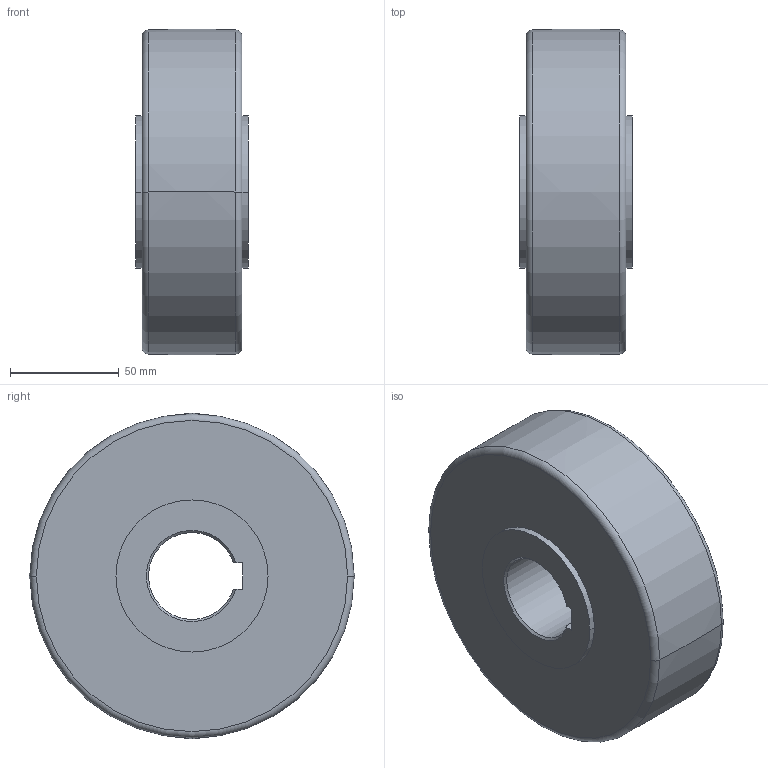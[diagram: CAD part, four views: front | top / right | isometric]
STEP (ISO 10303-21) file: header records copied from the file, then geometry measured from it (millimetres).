
FILE_DESCRIPTION((''),'2;1');
FILE_NAME('312-8-3-1-2_PRT','2021-01-13T',('SYSTEM'),(''),'CREO PARAMETRIC BY PTC INC, 2017480','CREO PARAMETRIC BY PTC INC, 2017480','');
FILE_SCHEMA(('CONFIG_CONTROL_DESIGN'));
Length unit declared in the file: millimetre
Products named in the file (1): 312-8-3-1-2_PRT
Bounding box: 52 x 149.91 x 149.91 mm (x, y, z)
Volume: 764325.5 mm3; surface area: 60949.3 mm2
Topology: 1 solids, 1 shells, 20 faces, 44 edges, 28 vertices
Faces by surface type: plane 7, cylinder 5, torus 4, cone 2, bspline 2
Entity records: 650 total; most frequent: CARTESIAN_POINT 154, DIRECTION 102, ORIENTED_EDGE 88, AXIS2_PLACEMENT_3D 44, EDGE_CURVE 44, VERTEX_POINT 28, CIRCLE 26, EDGE_LOOP 24
